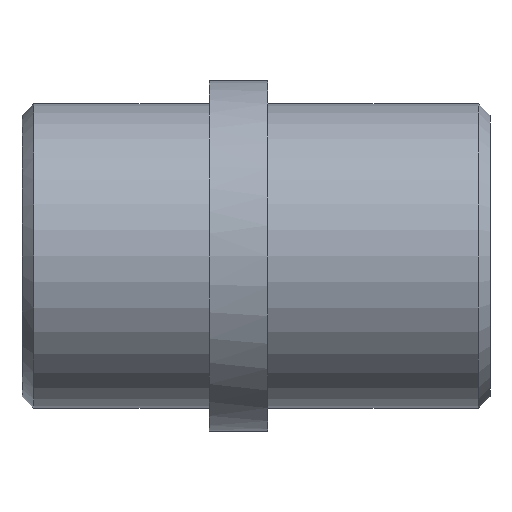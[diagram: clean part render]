
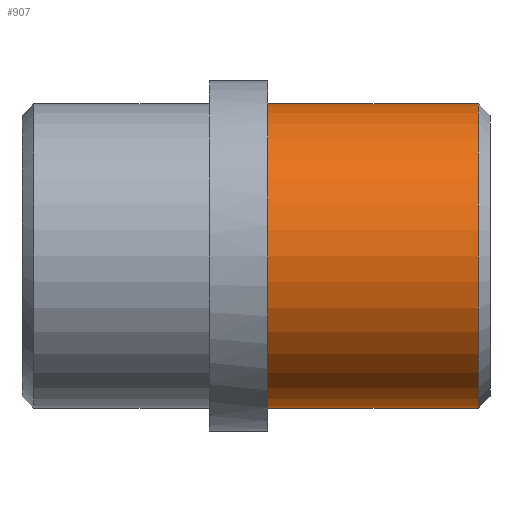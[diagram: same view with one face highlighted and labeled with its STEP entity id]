
A CAD part, front view. The second image highlights one B-rep face of the part: STEP entity #907.
In plain terms, the highlighted cylindrical face has radius 13 mm (diameter 26 mm), a partial arc.
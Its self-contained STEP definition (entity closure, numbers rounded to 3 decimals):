
#773=CARTESIAN_POINT('Vertex',(0.,0.,-13.)) ;
#778=CARTESIAN_POINT('Axis2P3D Location',(0.,0.,0.)) ;
#782=CARTESIAN_POINT('Vertex',(0.,-13.,0.)) ;
#785=CARTESIAN_POINT('Axis2P3D Location',(0.,0.,0.)) ;
#789=CARTESIAN_POINT('Vertex',(0.,0.,13.)) ;
#813=CARTESIAN_POINT('Vertex',(18.,0.,13.)) ;
#820=CARTESIAN_POINT('Vertex',(18.,0.,-13.)) ;
#849=CARTESIAN_POINT('Axis2P3D Location',(18.,0.,0.)) ;
#853=CARTESIAN_POINT('Vertex',(18.,-13.,0.)) ;
#856=CARTESIAN_POINT('Axis2P3D Location',(18.,0.,0.)) ;
#875=CARTESIAN_POINT('Line Origine',(19.,0.,13.)) ;
#880=CARTESIAN_POINT('Line Origine',(19.,0.,-13.)) ;
#894=CARTESIAN_POINT('Axis2P3D Location',(19.,0.,0.)) ;
#779=DIRECTION('Axis2P3D Direction',(1.,0.,-0.)) ;
#786=DIRECTION('Axis2P3D Direction',(1.,0.,-0.)) ;
#850=DIRECTION('Axis2P3D Direction',(-1.,0.,0.)) ;
#857=DIRECTION('Axis2P3D Direction',(-1.,0.,0.)) ;
#876=DIRECTION('Vector Direction',(-1.,0.,0.)) ;
#881=DIRECTION('Vector Direction',(-1.,0.,0.)) ;
#895=DIRECTION('Axis2P3D Direction',(-1.,-0.,-0.)) ;
#896=DIRECTION('Axis2P3D XDirection',(0.,0.,-1.)) ;
#780=AXIS2_PLACEMENT_3D('Circle Axis2P3D',#778,#779,$) ;
#787=AXIS2_PLACEMENT_3D('Circle Axis2P3D',#785,#786,$) ;
#851=AXIS2_PLACEMENT_3D('Circle Axis2P3D',#849,#850,$) ;
#858=AXIS2_PLACEMENT_3D('Circle Axis2P3D',#856,#857,$) ;
#897=AXIS2_PLACEMENT_3D('Cylinder Axis2P3D',#894,#895,#896) ;
#900=ORIENTED_EDGE('',*,*,#884,.T.) ;
#901=ORIENTED_EDGE('',*,*,#860,.F.) ;
#902=ORIENTED_EDGE('',*,*,#855,.F.) ;
#903=ORIENTED_EDGE('',*,*,#879,.T.) ;
#904=ORIENTED_EDGE('',*,*,#791,.T.) ;
#905=ORIENTED_EDGE('',*,*,#784,.T.) ;
#877=VECTOR('Line Direction',#876,1.) ;
#882=VECTOR('Line Direction',#881,1.) ;
#907=ADVANCED_FACE('355-18X40',(#906),#898,.T.) ;
#781=CIRCLE('generated circle',#780,13.) ;
#788=CIRCLE('generated circle',#787,13.) ;
#852=CIRCLE('generated circle',#851,13.) ;
#859=CIRCLE('generated circle',#858,13.) ;
#898=CYLINDRICAL_SURFACE('generated cylinder',#897,13.) ;
#784=EDGE_CURVE('',#783,#774,#781,.T.) ;
#791=EDGE_CURVE('',#790,#783,#788,.T.) ;
#855=EDGE_CURVE('',#814,#854,#852,.F.) ;
#860=EDGE_CURVE('',#854,#821,#859,.F.) ;
#879=EDGE_CURVE('',#814,#790,#878,.T.) ;
#884=EDGE_CURVE('',#774,#821,#883,.F.) ;
#899=EDGE_LOOP('',(#900,#901,#902,#903,#904,#905)) ;
#906=FACE_OUTER_BOUND('',#899,.T.) ;
#878=LINE('Line',#875,#877) ;
#883=LINE('Line',#880,#882) ;
#774=VERTEX_POINT('',#773) ;
#783=VERTEX_POINT('',#782) ;
#790=VERTEX_POINT('',#789) ;
#814=VERTEX_POINT('',#813) ;
#821=VERTEX_POINT('',#820) ;
#854=VERTEX_POINT('',#853) ;
